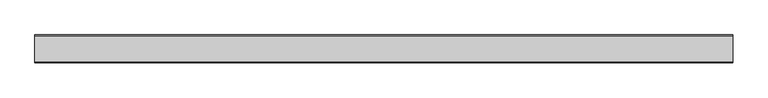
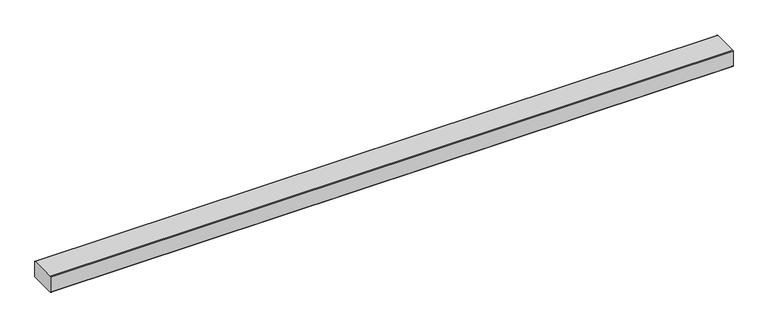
"""IFC4 building model written with IfcOpenShell, lengths in millimetres: duct fitting geometry, Кабель-канал DLP 50x80 - 1 секция - 1 крышка 65 мм - длина 2 м - белый : Кабель-канал DLP 50x80 - 1 секция - 1 крышка 65 мм - длина 2 м - белый."""

from ifc_helpers import new_model, si_unit, point, frame, frame_2d, origin, place, context, project, spatial, polyline, circle_curve, trimmed, segment, composite_curve, outline, extrude, source, transform, mapped, element, save


def duct_fitting_82c3dcf0(model_context):
    return source(origin(), model_context, "Body", "SweptSolid", [
        extrude(outline(composite_curve([segment(trimmed(circle_curve(frame_2d((38.0, 48.0)), 2.0), [point((38.0, 50.0))], [point((40.0, 48.0))], False, "CARTESIAN"), True, "CONTINUOUS"), segment(polyline([(40.0, 48.0), (40.0, 2.0)]), True, "CONTINUOUS"), segment(trimmed(circle_curve(frame_2d((38.0, 2.0)), 2.0), [point((40.0, 2.0))], [point((38.0, 0.0))], False, "CARTESIAN"), True, "CONTINUOUS"), segment(polyline([(38.0, 0.0), (-38.0, 0.0)]), True, "CONTINUOUS"), segment(trimmed(circle_curve(frame_2d((-38.0, 2.0)), 2.0), [point((-38.0, 0.0))], [point((-40.0, 2.0))], False, "CARTESIAN"), True, "CONTINUOUS"), segment(polyline([(-40.0, 2.0), (-40.0, 48.0)]), True, "CONTINUOUS"), segment(trimmed(circle_curve(frame_2d((-38.0, 48.0)), 2.0), [point((-40.0, 48.0))], [point((-38.0, 50.0))], False, "CARTESIAN"), True, "CONTINUOUS"), segment(polyline([(-38.0, 50.0), (38.0, 50.0)]), True, "CONTINUOUS")], self_intersect=False)), frame((-1000.0, 0.0, 0.0), z_axis=(1.0, 0.0, 0.0), x_axis=(0.0, 1.0, 0.0)), (0.0, 0.0, 1.0), 2000.0),
    ])


if __name__ == "__main__":
    model = new_model("IFC4")
    model_context = context("Model", 3, world=origin())
    ifc_project = project(units=[si_unit("LENGTHUNIT", "METRE", prefix="MILLI")], contexts=[model_context])
    site = spatial("IfcSite", under=ifc_project)
    building = spatial("IfcBuilding", under=site)
    placement = place(None, origin())
    duct_fitting_shape = duct_fitting_82c3dcf0(model_context)
    element("IfcDuctFitting", 1, ObjectType="Кабель-канал DLP 50x80 - 1 секция - 1 крышка 65 мм - длина 2 м - белый : Кабель-канал DLP 50x80 - 1 секция - 1 крышка 65 мм - длина 2 м - белый", at=placement, inside=building, context=model_context, shape_type="MappedRepresentation", body=[
        mapped(duct_fitting_shape, transform((0.0, 0.0, 0.0), x_axis=(1.0, 0.0, 0.0), y_axis=(0.0, 1.0, 0.0), z_axis=(0.0, 0.0, 1.0))),
    ])
    save(model, "model.ifc")
